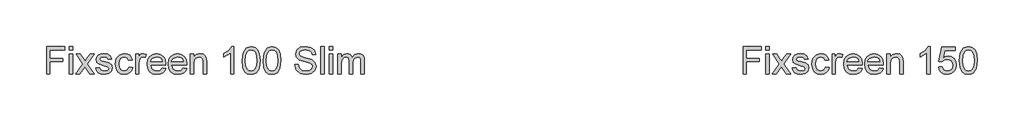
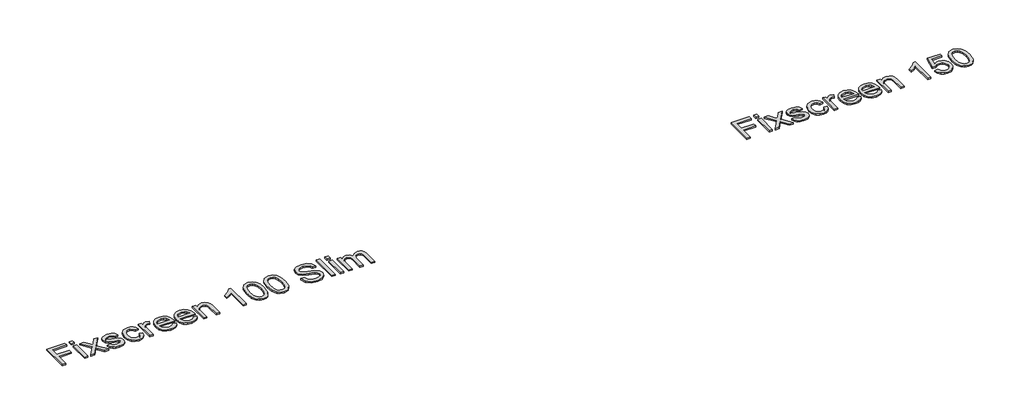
# One storey, incomplete: 2 proxies.
"""IFC4 building model written with IfcOpenShell, lengths in millimetres."""

from ifc_helpers import new_model, si_unit, origin, origin_with_axes, place, context, project, spatial, polyline, outline, extrude, element, save

model = new_model("IFC4")

# Units and contexts
model_context = context("Model", 3, world=origin())
ifc_project = project(units=[si_unit("LENGTHUNIT", "METRE", prefix="MILLI")], contexts=[model_context])

# Site, building, storey
site = spatial("IfcSite", under=ifc_project)
building = spatial("IfcBuilding", under=site)
storey = spatial("IfcBuildingStorey", under=building, Name="Fixscreen Overview Top", Elevation=0.0)

# Proxies
placement = place(None, origin())
element("IfcBuildingElementProxy", 1, Name="100mm Arial", ObjectType="100mm Arial", at=placement, inside=storey, context=model_context, shape_type="SweptSolid", body=[
    extrude(outline(polyline([(-8033.9780003, -2523.9021098), (-8033.9780003, -2423.4457997), (-7966.4839169, -2423.4457997), (-7966.4839169, -2436.0028384), (-8021.4209615, -2436.0028384), (-8021.4209615, -2465.8258055), (-7974.3320661, -2465.8258055), (-7974.3320661, -2478.3828443), (-8021.4209615, -2478.3828443), (-8021.4209615, -2523.9021098), (-8033.9780003, -2523.9021098)])), origin_with_axes(), (0.0, 0.0, 1.0), 5.0),
    extrude(outline(polyline([(-7950.7876184, -2523.9021098), (-7950.7876184, -2450.129507), (-7938.2305796, -2450.129507), (-7938.2305796, -2523.9021098), (-7950.7876184, -2523.9021098)])), origin_with_axes(), (0.0, 0.0, 1.0), 5.0),
    extrude(outline(polyline([(-7950.7876184, -2436.0028384), (-7950.7876184, -2423.4457997), (-7938.2305796, -2423.4457997), (-7938.2305796, -2436.0028384), (-7950.7876184, -2436.0028384)])), origin_with_axes(), (0.0, 0.0, 1.0), 5.0),
    extrude(outline(polyline([(-7927.2431707, -2523.9021098), (-7900.4123105, -2486.8196047), (-7925.6735409, -2450.129507), (-7910.5658536, -2450.129507), (-7898.3766968, -2467.7878428), (-7892.6867886, -2476.1265014), (-7887.7571699, -2469.3084217), (-7873.8757559, -2450.129507), (-7858.7680687, -2450.129507), (-7885.3046233, -2486.8196047), (-7859.7490873, -2523.9021098), (-7874.8567746, -2523.9021098), (-7890.234242, -2501.6084609), (-7893.0546706, -2497.5372335), (-7912.1354834, -2523.9021098), (-7927.2431707, -2523.9021098)])), origin_with_axes(), (0.0, 0.0, 1.0), 5.0),
    extrude(outline(polyline([(-7853.4705679, -2501.927292), (-7840.9135292, -2500.3576621), (-7835.1009937, -2509.6773393), (-7821.7836654, -2512.9147009), (-7808.981372, -2509.9471195), (-7804.8120427, -2502.981887), (-7809.0058975, -2497.3410298), (-7821.9308182, -2493.7603117), (-7840.8399528, -2487.6166824), (-7849.0927722, -2480.4429835), (-7851.9009381, -2470.3139659), (-7849.6445952, -2460.9575004), (-7843.4887031, -2453.808327), (-7835.5056639, -2450.0927188), (-7824.7021959, -2448.5598772), (-7809.4228304, -2451.0246866), (-7799.7107457, -2457.6956134), (-7795.3942636, -2468.9650652), (-7807.9513024, -2470.534695), (-7812.6724547, -2463.6062508), (-7823.7211773, -2461.116916), (-7835.7386558, -2463.4958862), (-7839.3438993, -2469.0386416), (-7837.8478459, -2472.6929361), (-7833.1634818, -2475.4643138), (-7822.3477512, -2478.1375896), (-7803.9168632, -2484.048227), (-7795.3574754, -2490.7436793), (-7792.255004, -2501.6575118), (-7795.8970357, -2513.6749903), (-7806.406198, -2522.3937936), (-7821.9553437, -2525.4717397), (-7834.6166157, -2523.9879489), (-7843.8565851, -2519.5365768), (-7850.0247399, -2512.1666742), (-7853.4705679, -2501.927292)])), origin_with_axes(), (0.0, 0.0, 1.0), 5.0),
    extrude(outline(polyline([(-7731.03944, -2497.2184024), (-7718.4824012, -2498.7880323), (-7721.9834115, -2509.9563165), (-7728.5623679, -2518.3961426), (-7737.6000022, -2523.7028404), (-7748.4770465, -2525.4717397), (-7761.8342286, -2523.0038646), (-7772.2790116, -2515.6002395), (-7779.0204492, -2503.5858266), (-7781.267595, -2487.2855886), (-7777.4293595, -2466.4266794), (-7765.7307121, -2453.0235121), (-7748.6487248, -2448.5598772), (-7738.0383949, -2450.0927188), (-7729.5556492, -2454.6912438), (-7723.4702679, -2462.1101974), (-7720.052031, -2472.1043249), (-7732.6090698, -2473.6739547), (-7738.4338681, -2464.2684384), (-7748.5506229, -2461.116916), (-7756.6654866, -2462.6681517), (-7763.1064872, -2467.321859), (-7767.309539, -2475.3294237), (-7768.7105563, -2486.942232), (-7767.3401958, -2498.7113902), (-7763.2291145, -2506.7465461), (-7756.9046099, -2511.3726622), (-7748.8939795, -2512.9147009), (-7737.0604419, -2509.0642027), (-7731.03944, -2497.2184024)])), origin_with_axes(), (0.0, 0.0, 1.0), 5.0),
    extrude(outline(polyline([(-7707.4949923, -2523.9021098), (-7707.4949923, -2450.129507), (-7696.5075833, -2450.129507), (-7696.5075833, -2461.0433396), (-7688.708485, -2450.9878984), (-7680.8603358, -2448.5598772), (-7668.2542461, -2452.4349009), (-7672.4481009, -2463.6920899), (-7681.2772687, -2461.116916), (-7688.3773912, -2463.5939881), (-7692.9023398, -2470.4611186), (-7694.9379535, -2485.1273475), (-7694.9379535, -2523.9021098), (-7707.4949923, -2523.9021098)])), origin_with_axes(), (0.0, 0.0, 1.0), 5.0),
    extrude(outline(polyline([(-7608.7554648, -2501.927292), (-7596.4436807, -2503.4969218), (-7600.8797244, -2512.7736795), (-7607.9583871, -2519.7082551), (-7617.5202533, -2524.0308685), (-7629.4059074, -2525.4717397), (-7644.1395813, -2522.9854705), (-7655.4764781, -2515.5266631), (-7662.7053594, -2503.5796953), (-7665.1149864, -2487.6289451), (-7662.6808339, -2471.1417003), (-7655.3783763, -2458.8115221), (-7644.1947636, -2451.1227884), (-7630.1171459, -2448.5598772), (-7616.477921, -2451.1166571), (-7605.5794169, -2458.7869967), (-7598.4333091, -2471.0926494), (-7596.0512732, -2487.5553687), (-7596.1248496, -2490.939883), (-7652.5579477, -2490.939883), (-7650.3843782, -2500.339268), (-7645.3351978, -2507.2493182), (-7638.0480686, -2511.4983552), (-7629.1606528, -2512.9147009), (-7616.8488687, -2510.290476), (-7608.7554648, -2501.927292)]), holes=[polyline([(-7652.5579477, -2478.3828443), (-7608.608312, -2478.3828443), (-7613.6360326, -2467.0030279), (-7620.9568843, -2462.588444), (-7630.1661969, -2461.116916), (-7645.6295034, -2465.8135428), (-7650.4947428, -2471.3041816), (-7652.5579477, -2478.3828443)])]), origin_with_axes(), (0.0, 0.0, 1.0), 5.0),
    extrude(outline(polyline([(-7531.8436023, -2501.927292), (-7519.5318182, -2503.4969218), (-7523.9678619, -2512.7736795), (-7531.0465246, -2519.7082551), (-7540.6083908, -2524.0308685), (-7552.494045, -2525.4717397), (-7567.2277189, -2522.9854705), (-7578.5646157, -2515.5266631), (-7585.7934969, -2503.5796953), (-7588.203124, -2487.6289451), (-7585.7689714, -2471.1417003), (-7578.4665138, -2458.8115221), (-7567.2829012, -2451.1227884), (-7553.2052835, -2448.5598772), (-7539.5660585, -2451.1166571), (-7528.6675544, -2458.7869967), (-7521.5214467, -2471.0926494), (-7519.1394107, -2487.5553687), (-7519.2129871, -2490.939883), (-7575.6460852, -2490.939883), (-7573.4725157, -2500.339268), (-7568.4233354, -2507.2493182), (-7561.1362062, -2511.4983552), (-7552.2487903, -2512.9147009), (-7539.9370062, -2510.290476), (-7531.8436023, -2501.927292)]), holes=[polyline([(-7575.6460852, -2478.3828443), (-7531.6964495, -2478.3828443), (-7536.7241701, -2467.0030279), (-7544.0450218, -2462.588444), (-7553.2543344, -2461.116916), (-7568.7176409, -2465.8135428), (-7573.5828803, -2471.3041816), (-7575.6460852, -2478.3828443)])]), origin_with_axes(), (0.0, 0.0, 1.0), 5.0),
    extrude(outline(polyline([(-7506.582372, -2523.9021098), (-7506.582372, -2450.129507), (-7494.0253332, -2450.129507), (-7494.0253332, -2460.4302029), (-7484.4236131, -2451.5274586), (-7471.3147514, -2448.5598772), (-7459.4566884, -2450.9511102), (-7451.3632845, -2457.2296296), (-7447.5986254, -2466.4634676), (-7446.9364378, -2478.6035735), (-7446.9364378, -2523.9021098), (-7459.4934766, -2523.9021098), (-7459.4934766, -2480.2958307), (-7460.9404791, -2469.1857944), (-7466.0540388, -2463.3119452), (-7474.6747402, -2461.116916), (-7488.2986368, -2466.0465347), (-7492.5936591, -2473.1895768), (-7494.0253332, -2484.7594655), (-7494.0253332, -2523.9021098), (-7506.582372, -2523.9021098)])), origin_with_axes(), (0.0, 0.0, 1.0), 5.0),
    extrude(outline(polyline([(-7346.4801277, -2523.9021098), (-7359.0371664, -2523.9021098), (-7359.0371664, -2445.6168212), (-7370.9320176, -2454.0903699), (-7384.151244, -2460.4302029), (-7384.151244, -2448.5598772), (-7365.7448815, -2436.8121788), (-7354.5735316, -2423.4457997), (-7346.4801277, -2423.4457997), (-7346.4801277, -2523.9021098)])), origin_with_axes(), (0.0, 0.0, 1.0), 5.0),
    extrude(outline(polyline([(-7316.6571606, -2474.4832951), (-7312.9660779, -2445.580033), (-7302.0031944, -2428.9149787), (-7283.6949338, -2423.4457997), (-7269.0287049, -2426.6831612), (-7258.8996873, -2436.0151012), (-7253.0135754, -2450.8775338), (-7250.7327071, -2474.4832951), (-7254.3870015, -2503.2639299), (-7265.3130968, -2519.9657725), (-7273.5444564, -2524.0952479), (-7283.6949338, -2525.4717397), (-7296.7424819, -2523.0805067), (-7306.6507703, -2515.9068078), (-7314.155563, -2498.916791), (-7316.6571606, -2474.4832951)]), holes=[polyline([(-7304.1001218, -2474.4587697), (-7302.6285938, -2494.2109671), (-7298.2140099, -2505.6429001), (-7291.6411849, -2511.0967507), (-7283.6949338, -2512.9147009), (-7275.7486827, -2511.0906193), (-7269.1758577, -2505.6183747), (-7264.7612738, -2494.1803103), (-7263.2897458, -2474.4587697), (-7264.7122229, -2455.1510963), (-7268.979654, -2443.6302585), (-7275.5402163, -2437.9096934), (-7283.8420866, -2436.0028384), (-7291.7024986, -2437.6828329), (-7298.0178062, -2442.7228162), (-7302.5795429, -2454.9610239), (-7304.1001218, -2474.4587697)])]), origin_with_axes(), (0.0, 0.0, 1.0), 5.0),
    extrude(outline(polyline([(-7239.7452981, -2474.4832951), (-7236.0542154, -2445.580033), (-7225.091332, -2428.9149787), (-7206.7830714, -2423.4457997), (-7192.1168425, -2426.6831612), (-7181.9878249, -2436.0151012), (-7176.101713, -2450.8775338), (-7173.8208446, -2474.4832951), (-7177.4751391, -2503.2639299), (-7188.4012343, -2519.9657725), (-7196.632594, -2524.0952479), (-7206.7830714, -2525.4717397), (-7219.8306195, -2523.0805067), (-7229.7389079, -2515.9068078), (-7237.2437006, -2498.916791), (-7239.7452981, -2474.4832951)]), holes=[polyline([(-7227.1882594, -2474.4587697), (-7225.7167314, -2494.2109671), (-7221.3021474, -2505.6429001), (-7214.7293225, -2511.0967507), (-7206.7830714, -2512.9147009), (-7198.8368203, -2511.0906193), (-7192.2639953, -2505.6183747), (-7187.8494113, -2494.1803103), (-7186.3778834, -2474.4587697), (-7187.8003604, -2455.1510963), (-7192.0677916, -2443.6302585), (-7198.6283538, -2437.9096934), (-7206.9302242, -2436.0028384), (-7214.7906361, -2437.6828329), (-7221.1059437, -2442.7228162), (-7225.6676804, -2454.9610239), (-7227.1882594, -2474.4587697)])]), origin_with_axes(), (0.0, 0.0, 1.0), 5.0),
    extrude(outline(polyline([(-7123.5926895, -2489.3702532), (-7111.0356508, -2489.3702532), (-7106.9889488, -2501.9395547), (-7097.1051859, -2509.8858058), (-7082.0465495, -2512.9147009), (-7068.925425, -2510.6215698), (-7060.4518764, -2504.3185249), (-7057.668236, -2495.8940272), (-7059.7529006, -2488.0581408), (-7068.2877629, -2482.3559698), (-7086.5714981, -2477.5612412), (-7106.2531848, -2471.3685609), (-7116.9340254, -2462.0243582), (-7120.4534298, -2449.5408959), (-7116.1001596, -2435.3283881), (-7103.3837053, -2425.2974724), (-7084.7688763, -2421.8761698), (-7064.9032486, -2425.4568879), (-7051.6594967, -2435.978313), (-7046.6808271, -2451.6991369), (-7059.2378658, -2451.6991369), (-7061.5432597, -2444.2066069), (-7066.3502511, -2438.7987416), (-7084.278367, -2434.4332086), (-7102.2555338, -2438.7496907), (-7107.8963911, -2449.1730139), (-7103.89874, -2457.8795544), (-7083.3954502, -2464.8938378), (-7061.1753777, -2471.1968826), (-7049.0230091, -2481.3749512), (-7045.1111972, -2495.5751962), (-7049.6116203, -2510.5970443), (-7062.5610665, -2521.5599278), (-7081.5560402, -2525.4717397), (-7103.9845792, -2521.2533595), (-7118.1725615, -2508.5491679), (-7123.5926895, -2489.3702532)])), origin_with_axes(), (0.0, 0.0, 1.0), 5.0),
    extrude(outline(polyline([(-7027.8452689, -2523.9021098), (-7027.8452689, -2423.4457997), (-7015.2882301, -2423.4457997), (-7015.2882301, -2523.9021098), (-7027.8452689, -2523.9021098)])), origin_with_axes(), (0.0, 0.0, 1.0), 5.0),
    extrude(outline(polyline([(-6996.452672, -2436.0028384), (-6996.452672, -2423.4457997), (-6983.8956332, -2423.4457997), (-6983.8956332, -2436.0028384), (-6996.452672, -2436.0028384)])), origin_with_axes(), (0.0, 0.0, 1.0), 5.0),
    extrude(outline(polyline([(-6996.452672, -2523.9021098), (-6996.452672, -2450.129507), (-6983.8956332, -2450.129507), (-6983.8956332, -2523.9021098), (-6996.452672, -2523.9021098)])), origin_with_axes(), (0.0, 0.0, 1.0), 5.0),
    extrude(outline(polyline([(-6965.0600751, -2523.9021098), (-6965.0600751, -2450.129507), (-6952.5030363, -2450.129507), (-6952.5030363, -2462.2696129), (-6943.8700721, -2452.3245363), (-6931.5828135, -2448.5598772), (-6919.0012493, -2452.3981127), (-6912.0850678, -2463.1525297), (-6902.287144, -2452.2080403), (-6889.9140462, -2448.5598772), (-6880.4748073, -2450.0773904), (-6873.4942465, -2454.6299301), (-6869.1808301, -2462.3401236), (-6867.7430246, -2473.3305982), (-6867.7430246, -2523.9021098), (-6880.3000634, -2523.9021098), (-6880.3000634, -2478.7262008), (-6881.465023, -2468.2415639), (-6885.6834032, -2463.0789533), (-6892.8571021, -2461.116916), (-6905.2056744, -2466.1446366), (-6908.8936915, -2472.6868047), (-6910.1230305, -2482.257868), (-6910.1230305, -2523.9021098), (-6922.6800692, -2523.9021098), (-6922.6800692, -2477.3282492), (-6925.586337, -2465.1636179), (-6935.1144807, -2461.116916), (-6944.4096324, -2463.8147173), (-6950.5900499, -2471.7119174), (-6952.5030363, -2486.6969774), (-6952.5030363, -2523.9021098), (-6965.0600751, -2523.9021098)])), origin_with_axes(), (0.0, 0.0, 1.0), 5.0),
])
element("IfcBuildingElementProxy", 2, Name="100mm Arial", ObjectType="100mm Arial", at=placement, inside=storey, context=model_context, shape_type="SweptSolid", body=[
    extrude(outline(polyline([(-5478.5846455, -2523.9021098), (-5478.5846455, -2423.4457997), (-5411.0905621, -2423.4457997), (-5411.0905621, -2436.0028384), (-5466.0276067, -2436.0028384), (-5466.0276067, -2465.8258055), (-5418.9387113, -2465.8258055), (-5418.9387113, -2478.3828443), (-5466.0276067, -2478.3828443), (-5466.0276067, -2523.9021098), (-5478.5846455, -2523.9021098)])), origin_with_axes(), (0.0, 0.0, 1.0), 5.0),
    extrude(outline(polyline([(-5395.3942636, -2523.9021098), (-5395.3942636, -2450.129507), (-5382.8372249, -2450.129507), (-5382.8372249, -2523.9021098), (-5395.3942636, -2523.9021098)])), origin_with_axes(), (0.0, 0.0, 1.0), 5.0),
    extrude(outline(polyline([(-5395.3942636, -2436.0028384), (-5395.3942636, -2423.4457997), (-5382.8372249, -2423.4457997), (-5382.8372249, -2436.0028384), (-5395.3942636, -2436.0028384)])), origin_with_axes(), (0.0, 0.0, 1.0), 5.0),
    extrude(outline(polyline([(-5371.849816, -2523.9021098), (-5345.0189558, -2486.8196047), (-5370.2801861, -2450.129507), (-5355.1724988, -2450.129507), (-5342.9833421, -2467.7878428), (-5337.2934339, -2476.1265014), (-5332.3638151, -2469.3084217), (-5318.4824012, -2450.129507), (-5303.3747139, -2450.129507), (-5329.9112685, -2486.8196047), (-5304.3557326, -2523.9021098), (-5319.4634198, -2523.9021098), (-5334.8408872, -2501.6084609), (-5337.6613159, -2497.5372335), (-5356.7421287, -2523.9021098), (-5371.849816, -2523.9021098)])), origin_with_axes(), (0.0, 0.0, 1.0), 5.0),
    extrude(outline(polyline([(-5298.0772132, -2501.927292), (-5285.5201744, -2500.3576621), (-5279.7076389, -2509.6773393), (-5266.3903107, -2512.9147009), (-5253.5880172, -2509.9471195), (-5249.418688, -2502.981887), (-5253.6125427, -2497.3410298), (-5266.5374635, -2493.7603117), (-5285.446598, -2487.6166824), (-5293.6994174, -2480.4429835), (-5296.5075833, -2470.3139659), (-5294.2512404, -2460.9575004), (-5288.0953484, -2453.808327), (-5280.1123091, -2450.0927188), (-5269.3088412, -2448.5598772), (-5254.0294756, -2451.0246866), (-5244.317391, -2457.6956134), (-5240.0009089, -2468.9650652), (-5252.5579477, -2470.534695), (-5257.2790999, -2463.6062508), (-5268.3278225, -2461.116916), (-5280.345301, -2463.4958862), (-5283.9505446, -2469.0386416), (-5282.4544911, -2472.6929361), (-5277.7701271, -2475.4643138), (-5266.9543964, -2478.1375896), (-5248.5235084, -2484.048227), (-5239.9641207, -2490.7436793), (-5236.8616492, -2501.6575118), (-5240.5036809, -2513.6749903), (-5251.0128433, -2522.3937936), (-5266.5619889, -2525.4717397), (-5279.2232609, -2523.9879489), (-5288.4632304, -2519.5365768), (-5294.6313852, -2512.1666742), (-5298.0772132, -2501.927292)])), origin_with_axes(), (0.0, 0.0, 1.0), 5.0),
    extrude(outline(polyline([(-5175.6460852, -2497.2184024), (-5163.0890464, -2498.7880323), (-5166.5900567, -2509.9563165), (-5173.1690131, -2518.3961426), (-5182.2066474, -2523.7028404), (-5193.0836918, -2525.4717397), (-5206.4408739, -2523.0038646), (-5216.8856569, -2515.6002395), (-5223.6270944, -2503.5858266), (-5225.8742403, -2487.2855886), (-5222.0360048, -2466.4266794), (-5210.3373573, -2453.0235121), (-5193.25537, -2448.5598772), (-5182.6450402, -2450.0927188), (-5174.1622945, -2454.6912438), (-5168.0769131, -2462.1101974), (-5164.6586763, -2472.1043249), (-5177.215715, -2473.6739547), (-5183.0405133, -2464.2684384), (-5193.1572682, -2461.116916), (-5201.2721318, -2462.6681517), (-5207.7131324, -2467.321859), (-5211.9161842, -2475.3294237), (-5213.3172015, -2486.942232), (-5211.9468411, -2498.7113902), (-5207.8357598, -2506.7465461), (-5201.5112551, -2511.3726622), (-5193.5006247, -2512.9147009), (-5181.6670872, -2509.0642027), (-5175.6460852, -2497.2184024)])), origin_with_axes(), (0.0, 0.0, 1.0), 5.0),
    extrude(outline(polyline([(-5152.1016375, -2523.9021098), (-5152.1016375, -2450.129507), (-5141.1142286, -2450.129507), (-5141.1142286, -2461.0433396), (-5133.3151303, -2450.9878984), (-5125.4669811, -2448.5598772), (-5112.8608913, -2452.4349009), (-5117.0547461, -2463.6920899), (-5125.883914, -2461.116916), (-5132.9840365, -2463.5939881), (-5137.508985, -2470.4611186), (-5139.5445987, -2485.1273475), (-5139.5445987, -2523.9021098), (-5152.1016375, -2523.9021098)])), origin_with_axes(), (0.0, 0.0, 1.0), 5.0),
    extrude(outline(polyline([(-5053.36211, -2501.927292), (-5041.0503259, -2503.4969218), (-5045.4863696, -2512.7736795), (-5052.5650323, -2519.7082551), (-5062.1268985, -2524.0308685), (-5074.0125527, -2525.4717397), (-5088.7462266, -2522.9854705), (-5100.0831234, -2515.5266631), (-5107.3120046, -2503.5796953), (-5109.7216317, -2487.6289451), (-5107.2874791, -2471.1417003), (-5099.9850215, -2458.8115221), (-5088.8014089, -2451.1227884), (-5074.7237912, -2448.5598772), (-5061.0845662, -2451.1166571), (-5050.1860621, -2458.7869967), (-5043.0399543, -2471.0926494), (-5040.6579184, -2487.5553687), (-5040.7314948, -2490.939883), (-5097.1645929, -2490.939883), (-5094.9910234, -2500.339268), (-5089.941843, -2507.2493182), (-5082.6547139, -2511.4983552), (-5073.767298, -2512.9147009), (-5061.4555139, -2510.290476), (-5053.36211, -2501.927292)]), holes=[polyline([(-5097.1645929, -2478.3828443), (-5053.2149572, -2478.3828443), (-5058.2426778, -2467.0030279), (-5065.5635295, -2462.588444), (-5074.7728421, -2461.116916), (-5090.2361486, -2465.8135428), (-5095.101388, -2471.3041816), (-5097.1645929, -2478.3828443)])]), origin_with_axes(), (0.0, 0.0, 1.0), 5.0),
    extrude(outline(polyline([(-4976.4502475, -2501.927292), (-4964.1384634, -2503.4969218), (-4968.5745072, -2512.7736795), (-4975.6531699, -2519.7082551), (-4985.2150361, -2524.0308685), (-4997.1006902, -2525.4717397), (-5011.8343641, -2522.9854705), (-5023.1712609, -2515.5266631), (-5030.4001421, -2503.5796953), (-5032.8097692, -2487.6289451), (-5030.3756167, -2471.1417003), (-5023.0731591, -2458.8115221), (-5011.8895464, -2451.1227884), (-4997.8119287, -2448.5598772), (-4984.1727038, -2451.1166571), (-4973.2741996, -2458.7869967), (-4966.1280919, -2471.0926494), (-4963.746056, -2487.5553687), (-4963.8196324, -2490.939883), (-5020.2527304, -2490.939883), (-5018.079161, -2500.339268), (-5013.0299806, -2507.2493182), (-5005.7428514, -2511.4983552), (-4996.8554355, -2512.9147009), (-4984.5436514, -2510.290476), (-4976.4502475, -2501.927292)]), holes=[polyline([(-5020.2527304, -2478.3828443), (-4976.3030947, -2478.3828443), (-4981.3308153, -2467.0030279), (-4988.651667, -2462.588444), (-4997.8609797, -2461.116916), (-5013.3242862, -2465.8135428), (-5018.1895256, -2471.3041816), (-5020.2527304, -2478.3828443)])]), origin_with_axes(), (0.0, 0.0, 1.0), 5.0),
    extrude(outline(polyline([(-4951.1890172, -2523.9021098), (-4951.1890172, -2450.129507), (-4938.6319784, -2450.129507), (-4938.6319784, -2460.4302029), (-4929.0302584, -2451.5274586), (-4915.9213966, -2448.5598772), (-4904.0633336, -2450.9511102), (-4895.9699297, -2457.2296296), (-4892.2052706, -2466.4634676), (-4891.5430831, -2478.6035735), (-4891.5430831, -2523.9021098), (-4904.1001218, -2523.9021098), (-4904.1001218, -2480.2958307), (-4905.5471243, -2469.1857944), (-4910.6606841, -2463.3119452), (-4919.2813855, -2461.116916), (-4932.905282, -2466.0465347), (-4937.2003043, -2473.1895768), (-4938.6319784, -2484.7594655), (-4938.6319784, -2523.9021098), (-4951.1890172, -2523.9021098)])), origin_with_axes(), (0.0, 0.0, 1.0), 5.0),
    extrude(outline(polyline([(-4791.0867729, -2523.9021098), (-4803.6438117, -2523.9021098), (-4803.6438117, -2445.6168212), (-4815.5386628, -2454.0903699), (-4828.7578892, -2460.4302029), (-4828.7578892, -2448.5598772), (-4810.3515267, -2436.8121788), (-4799.1801768, -2423.4457997), (-4791.0867729, -2423.4457997), (-4791.0867729, -2523.9021098)])), origin_with_axes(), (0.0, 0.0, 1.0), 5.0),
    extrude(outline(polyline([(-4761.2638058, -2497.2184024), (-4748.7067671, -2495.6487726), (-4742.3791967, -2508.5859561), (-4729.2580722, -2512.9147009), (-4720.2572261, -2511.4094504), (-4713.5127229, -2506.8936989), (-4709.300474, -2499.8886126), (-4707.8963911, -2490.9153576), (-4713.1571036, -2476.003874), (-4719.7636511, -2471.9019898), (-4729.0618685, -2470.534695), (-4740.0860656, -2472.7174616), (-4747.1371372, -2478.3828443), (-4759.694176, -2476.8132144), (-4748.7067671, -2425.0154295), (-4700.0482418, -2425.0154295), (-4700.0482418, -2437.5724683), (-4738.553224, -2437.5724683), (-4743.9243011, -2465.2371943), (-4734.9541118, -2459.7925408), (-4725.5547268, -2457.9776563), (-4713.8223569, -2460.2278678), (-4704.082681, -2466.9785024), (-4697.5251845, -2477.2669356), (-4695.3393523, -2490.1305427), (-4697.307521, -2502.6875814), (-4703.212027, -2513.4297357), (-4714.518267, -2522.4612387), (-4729.3071232, -2525.4717397), (-4741.6403671, -2523.5372935), (-4751.465882, -2517.733955), (-4758.2011882, -2508.7361746), (-4761.2638058, -2497.2184024)])), origin_with_axes(), (0.0, 0.0, 1.0), 5.0),
    extrude(outline(polyline([(-4684.3519434, -2474.4832951), (-4680.6608607, -2445.580033), (-4669.6979772, -2428.9149787), (-4651.3897166, -2423.4457997), (-4636.7234877, -2426.6831612), (-4626.5944701, -2436.0151012), (-4620.7083582, -2450.8775338), (-4618.4274898, -2474.4832951), (-4622.0817843, -2503.2639299), (-4633.0078796, -2519.9657725), (-4641.2392392, -2524.0952479), (-4651.3897166, -2525.4717397), (-4664.4372647, -2523.0805067), (-4674.3455531, -2515.9068078), (-4681.8503458, -2498.916791), (-4684.3519434, -2474.4832951)]), holes=[polyline([(-4671.7949046, -2474.4587697), (-4670.3233766, -2494.2109671), (-4665.9087927, -2505.6429001), (-4659.3359677, -2511.0967507), (-4651.3897166, -2512.9147009), (-4643.4434655, -2511.0906193), (-4636.8706405, -2505.6183747), (-4632.4560566, -2494.1803103), (-4630.9845286, -2474.4587697), (-4632.4070056, -2455.1510963), (-4636.6744368, -2443.6302585), (-4643.234999, -2437.9096934), (-4651.5368694, -2436.0028384), (-4659.3972814, -2437.6828329), (-4665.7125889, -2442.7228162), (-4670.2743257, -2454.9610239), (-4671.7949046, -2474.4587697)])]), origin_with_axes(), (0.0, 0.0, 1.0), 5.0),
])

save(model, "model.ifc")
